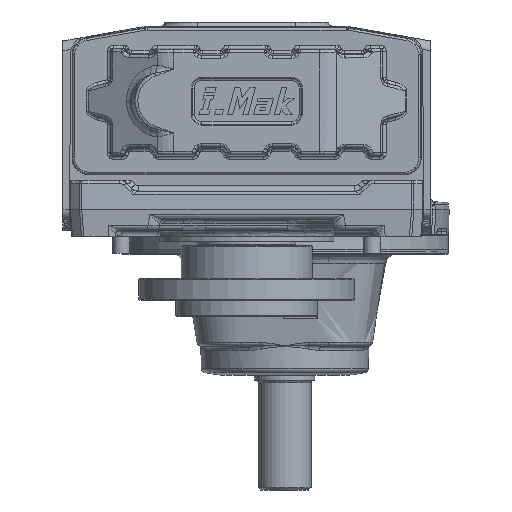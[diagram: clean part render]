
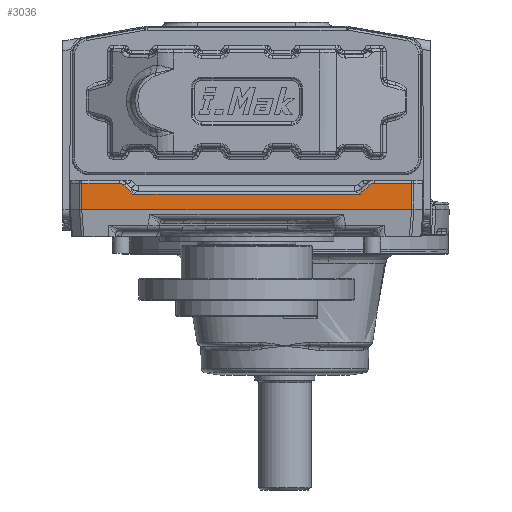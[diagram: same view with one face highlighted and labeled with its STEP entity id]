
A CAD part, front view. The second image highlights one B-rep face of the part: STEP entity #3036.
In plain terms, the highlighted planar face has unit normal (0, -0.999, 0.054).
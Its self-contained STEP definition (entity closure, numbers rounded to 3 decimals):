
#1045 = ORIENTED_EDGE ( 'NONE', *, *, #14763, .F. ) ;
#1696 = EDGE_CURVE ( 'NONE', #19110, #4661, #54056, .T. ) ;
#3036 = ADVANCED_FACE ( 'NONE', ( #69627 ), #26875, .F. ) ;
#3102 = ORIENTED_EDGE ( 'NONE', *, *, #67105, .F. ) ;
#3795 = CARTESIAN_POINT ( 'NONE',  ( 113.706, -159.195, 42.405 ) ) ;
#3841 = CARTESIAN_POINT ( 'NONE',  ( -151.201, -160.466, 19. ) ) ;
#3855 = DIRECTION ( 'NONE',  ( 1., 0., 0. ) ) ;
#3968 = CARTESIAN_POINT ( 'NONE',  ( -151.19, -160.466, 19. ) ) ;
#4635 = ORIENTED_EDGE ( 'NONE', *, *, #45693, .F. ) ;
#4661 = VERTEX_POINT ( 'NONE', #24637 ) ;
#5493 = VERTEX_POINT ( 'NONE', #34403 ) ;
#5614 = VECTOR ( 'NONE', #3855, 1000. ) ;
#5800 = CARTESIAN_POINT ( 'NONE',  ( -115.942, -159.154, 43.163 ) ) ;
#6179 = CARTESIAN_POINT ( 'NONE',  ( -116.728, -159.154, 43.163 ) ) ;
#7251 = VERTEX_POINT ( 'NONE', #41848 ) ;
#7371 = EDGE_CURVE ( 'NONE', #45728, #28066, #58415, .T. ) ;
#7616 = EDGE_CURVE ( 'NONE', #39750, #7251, #47251, .T. ) ;
#11387 = CARTESIAN_POINT ( 'NONE',  ( 162.466, -160.466, 19. ) ) ;
#11474 = DIRECTION ( 'NONE',  ( 0.707, 0.038, 0.707 ) ) ;
#12233 = CARTESIAN_POINT ( 'NONE',  ( 104.243, -159.697, 33.163 ) ) ;
#12347 = CARTESIAN_POINT ( 'NONE',  ( -151.012, -159.154, 43.163 ) ) ;
#14763 = EDGE_CURVE ( 'NONE', #5493, #39750, #14785, .T. ) ;
#14785 = LINE ( 'NONE', #32810, #65814 ) ;
#15128 = DIRECTION ( 'NONE',  ( 0., 0.999, -0.054 ) ) ;
#15363 = ORIENTED_EDGE ( 'NONE', *, *, #27758, .F. ) ;
#16857 = DIRECTION ( 'NONE',  ( 1., 0., 0. ) ) ;
#17195 =( BOUNDED_CURVE ( )  B_SPLINE_CURVE ( 3, ( #57559, #3841, #35145, #46152 ),
 .UNSPECIFIED., .F., .T. ) 
 B_SPLINE_CURVE_WITH_KNOTS ( ( 4, 4 ),
 ( 3.152, 3.163 ),
 .UNSPECIFIED. ) 
 CURVE ( )  GEOMETRIC_REPRESENTATION_ITEM ( )  RATIONAL_B_SPLINE_CURVE ( ( 1., 1., 1., 1. ) ) 
 REPRESENTATION_ITEM ( '' )  );
#17252 = LINE ( 'NONE', #11387, #29883 ) ;
#17939 = CARTESIAN_POINT ( 'NONE',  ( -113.041, -159.219, 41.961 ) ) ;
#19110 = VERTEX_POINT ( 'NONE', #58744 ) ;
#21991 = CARTESIAN_POINT ( 'NONE',  ( -104.243, -159.697, 33.163 ) ) ;
#24237 = CARTESIAN_POINT ( 'NONE',  ( 151.012, -159.154, 43.163 ) ) ;
#24637 = CARTESIAN_POINT ( 'NONE',  ( 151.223, -160.466, 19.008 ) ) ;
#25363 = DIRECTION ( 'NONE',  ( 0.707, -0.038, -0.707 ) ) ;
#26130 = CARTESIAN_POINT ( 'NONE',  ( 112.485, -159.249, 41.405 ) ) ;
#26875 = PLANE ( 'NONE',  #38068 ) ;
#27758 = EDGE_CURVE ( 'NONE', #45965, #76253, #39891, .T. ) ;
#28066 = VERTEX_POINT ( 'NONE', #57091 ) ;
#29406 = DIRECTION ( 'NONE',  ( -1., 0., 0. ) ) ;
#29532 = CARTESIAN_POINT ( 'NONE',  ( -151.223, -160.466, 19.001 ) ) ;
#29883 = VECTOR ( 'NONE', #29406, 1000. ) ;
#29988 = DIRECTION ( 'NONE',  ( 1., 0., 0. ) ) ;
#32806 = CARTESIAN_POINT ( 'NONE',  ( 112.485, -159.249, 41.405 ) ) ;
#32810 = CARTESIAN_POINT ( 'NONE',  ( -112.485, -159.249, 41.405 ) ) ;
#33085 = CARTESIAN_POINT ( 'NONE',  ( 151.223, -160.466, 19.008 ) ) ;
#33253 = VECTOR ( 'NONE', #11474, 1000. ) ;
#33847 = CARTESIAN_POINT ( 'NONE',  ( 151.141, -160.466, 19. ) ) ;
#34311 = ORIENTED_EDGE ( 'NONE', *, *, #54660, .F. ) ;
#34403 = CARTESIAN_POINT ( 'NONE',  ( -112.485, -159.249, 41.405 ) ) ;
#35145 = CARTESIAN_POINT ( 'NONE',  ( -151.212, -160.466, 19. ) ) ;
#36800 = ORIENTED_EDGE ( 'NONE', *, *, #7616, .F. ) ;
#38068 = AXIS2_PLACEMENT_3D ( 'NONE', #68841, #15128, #39022 ) ;
#39022 = DIRECTION ( 'NONE',  ( 0., 0.054, 0.999 ) ) ;
#39728 = CARTESIAN_POINT ( 'NONE',  ( 151.195, -160.466, 19.003 ) ) ;
#39750 = VERTEX_POINT ( 'NONE', #21991 ) ;
#39891 = LINE ( 'NONE', #44999, #5614 ) ;
#41846 = CARTESIAN_POINT ( 'NONE',  ( -112.485, -159.249, 41.405 ) ) ;
#41848 = CARTESIAN_POINT ( 'NONE',  ( 104.243, -159.697, 33.163 ) ) ;
#42015 = LINE ( 'NONE', #12233, #33253 ) ;
#43948 = VECTOR ( 'NONE', #29988, 1000. ) ;
#44999 = CARTESIAN_POINT ( 'NONE',  ( -200., -159.154, 43.163 ) ) ;
#45323 = VERTEX_POINT ( 'NONE', #57013 ) ;
#45693 = EDGE_CURVE ( 'NONE', #76253, #5493, #58072, .T. ) ;
#45728 = VERTEX_POINT ( 'NONE', #26130 ) ;
#45965 = VERTEX_POINT ( 'NONE', #12347 ) ;
#46152 = CARTESIAN_POINT ( 'NONE',  ( -151.223, -160.466, 19.001 ) ) ;
#47074 = CARTESIAN_POINT ( 'NONE',  ( -151.223, -160.466, 19.001 ) ) ;
#47251 = LINE ( 'NONE', #58644, #43948 ) ;
#47692 = EDGE_CURVE ( 'NONE', #4661, #45323, #53164, .T. ) ;
#48320 = DIRECTION ( 'NONE',  ( 0.009, 0.054, 0.998 ) ) ;
#49098 = ORIENTED_EDGE ( 'NONE', *, *, #1696, .F. ) ;
#49854 = VERTEX_POINT ( 'NONE', #3968 ) ;
#53164 = B_SPLINE_CURVE_WITH_KNOTS ( 'NONE', 3,
 ( #33085, #39728, #56642, #33847 ),
 .UNSPECIFIED., .F., .F.,
 ( 4, 4 ),
 ( 0., 1. ),
 .UNSPECIFIED. ) ;
#54056 = LINE ( 'NONE', #24237, #60266 ) ;
#54660 = EDGE_CURVE ( 'NONE', #74225, #45965, #61241, .T. ) ;
#54828 = ORIENTED_EDGE ( 'NONE', *, *, #71089, .F. ) ;
#54953 = CARTESIAN_POINT ( 'NONE',  ( -116.728, -159.154, 43.163 ) ) ;
#56642 = CARTESIAN_POINT ( 'NONE',  ( 151.168, -160.466, 19. ) ) ;
#56722 = VECTOR ( 'NONE', #48320, 1000. ) ;
#56748 = CARTESIAN_POINT ( 'NONE',  ( 115.157, -159.163, 43.006 ) ) ;
#57013 = CARTESIAN_POINT ( 'NONE',  ( 151.141, -160.466, 19. ) ) ;
#57091 = CARTESIAN_POINT ( 'NONE',  ( 116.728, -159.154, 43.163 ) ) ;
#57190 = EDGE_CURVE ( 'NONE', #49854, #74225, #17195, .T. ) ;
#57559 = CARTESIAN_POINT ( 'NONE',  ( -151.19, -160.466, 19. ) ) ;
#57667 = EDGE_CURVE ( 'NONE', #28066, #19110, #70591, .T. ) ;
#58072 = B_SPLINE_CURVE_WITH_KNOTS ( 'NONE', 3,
 ( #6179, #5800, #65398, #77574, #17939, #41846 ),
 .UNSPECIFIED., .F., .F.,
 ( 4, 2, 4 ),
 ( 0., 0.5, 1. ),
 .UNSPECIFIED. ) ;
#58286 = CARTESIAN_POINT ( 'NONE',  ( 116.728, -159.154, 43.163 ) ) ;
#58415 = B_SPLINE_CURVE_WITH_KNOTS ( 'NONE', 3,
 ( #32806, #69674, #3795, #56748, #76339, #58286 ),
 .UNSPECIFIED., .F., .F.,
 ( 4, 2, 4 ),
 ( 0., 0.5, 1. ),
 .UNSPECIFIED. ) ;
#58644 = CARTESIAN_POINT ( 'NONE',  ( -200., -159.697, 33.163 ) ) ;
#58744 = CARTESIAN_POINT ( 'NONE',  ( 151.012, -159.154, 43.163 ) ) ;
#59051 = EDGE_LOOP ( 'NONE', ( #3102, #36800, #1045, #4635, #15363, #34311, #65402, #54828, #73909, #49098, #67637, #76063 ) ) ;
#59172 = DIRECTION ( 'NONE',  ( 0.009, -0.054, -0.998 ) ) ;
#60266 = VECTOR ( 'NONE', #59172, 1000. ) ;
#61241 = LINE ( 'NONE', #29532, #56722 ) ;
#63906 = VECTOR ( 'NONE', #16857, 1000. ) ;
#65398 = CARTESIAN_POINT ( 'NONE',  ( -115.157, -159.163, 43.006 ) ) ;
#65402 = ORIENTED_EDGE ( 'NONE', *, *, #57190, .F. ) ;
#65814 = VECTOR ( 'NONE', #25363, 1000. ) ;
#67105 = EDGE_CURVE ( 'NONE', #7251, #45728, #42015, .T. ) ;
#67637 = ORIENTED_EDGE ( 'NONE', *, *, #57667, .F. ) ;
#68841 = CARTESIAN_POINT ( 'NONE',  ( -200., -160.466, 19. ) ) ;
#69627 = FACE_OUTER_BOUND ( 'NONE', #59051, .T. ) ;
#69674 = CARTESIAN_POINT ( 'NONE',  ( 113.041, -159.219, 41.961 ) ) ;
#70591 = LINE ( 'NONE', #76496, #63906 ) ;
#71089 = EDGE_CURVE ( 'NONE', #45323, #49854, #17252, .T. ) ;
#73909 = ORIENTED_EDGE ( 'NONE', *, *, #47692, .F. ) ;
#74225 = VERTEX_POINT ( 'NONE', #47074 ) ;
#76063 = ORIENTED_EDGE ( 'NONE', *, *, #7371, .F. ) ;
#76253 = VERTEX_POINT ( 'NONE', #54953 ) ;
#76339 = CARTESIAN_POINT ( 'NONE',  ( 115.942, -159.154, 43.163 ) ) ;
#76496 = CARTESIAN_POINT ( 'NONE',  ( -200., -159.154, 43.163 ) ) ;
#77574 = CARTESIAN_POINT ( 'NONE',  ( -113.706, -159.195, 42.405 ) ) ;
